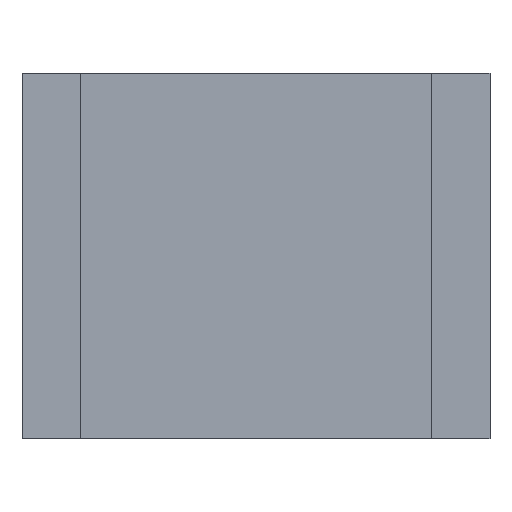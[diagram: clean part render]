
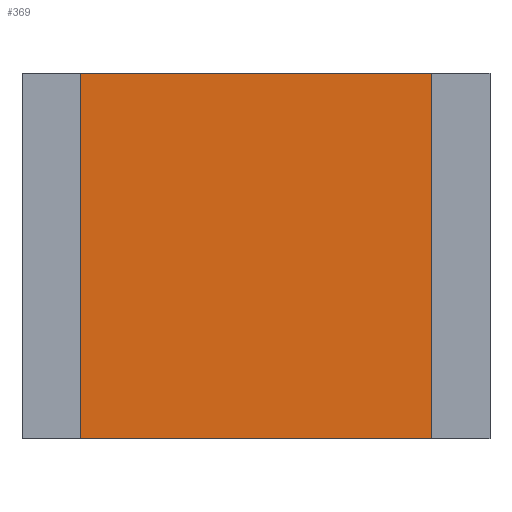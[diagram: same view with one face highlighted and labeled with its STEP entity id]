
A CAD part, top view. The second image highlights one B-rep face of the part: STEP entity #369.
In plain terms, the highlighted planar face has unit normal (0, 0, 1).
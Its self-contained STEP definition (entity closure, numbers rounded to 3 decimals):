
#369=ADVANCED_FACE('',(#766),#768,.F.);
#766=FACE_BOUND('',#767,.T.);
#767=EDGE_LOOP('',(#1050,#1051,#1052,#1053));
#768=PLANE('',#769);
#769=AXIS2_PLACEMENT_3D('',#770,#771,#772);
#770=CARTESIAN_POINT('',(0.,0.,0.6));
#771=DIRECTION('',(0.,0.,-1.));
#772=DIRECTION('',(1.,0.,0.));
#1050=ORIENTED_EDGE('',*,*,#1226,.F.);
#1051=ORIENTED_EDGE('',*,*,#1223,.F.);
#1052=ORIENTED_EDGE('',*,*,#1220,.F.);
#1053=ORIENTED_EDGE('',*,*,#1216,.F.);
#1216=EDGE_CURVE('',#1379,#1380,#1381,.T.);
#1220=EDGE_CURVE('',#1380,#1387,#1388,.T.);
#1223=EDGE_CURVE('',#1387,#1392,#1393,.T.);
#1226=EDGE_CURVE('',#1392,#1379,#1397,.T.);
#1379=VERTEX_POINT('',#1704);
#1380=VERTEX_POINT('',#1705);
#1381=LINE('',#1706,#1707);
#1387=VERTEX_POINT('',#1720);
#1388=LINE('',#1721,#1722);
#1392=VERTEX_POINT('',#1731);
#1393=LINE('',#1732,#1733);
#1397=LINE('',#1742,#1743);
#1704=CARTESIAN_POINT('',(1.2,-1.25,0.6));
#1705=CARTESIAN_POINT('',(-1.2,-1.25,0.6));
#1706=CARTESIAN_POINT('',(1.2,-1.25,0.6));
#1707=VECTOR('',#1708,1.);
#1708=DIRECTION('',(-1.,0.,0.));
#1720=CARTESIAN_POINT('',(-1.2,1.25,0.6));
#1721=CARTESIAN_POINT('',(-1.2,-1.25,0.6));
#1722=VECTOR('',#1723,1.);
#1723=DIRECTION('',(0.,1.,0.));
#1731=CARTESIAN_POINT('',(1.2,1.25,0.6));
#1732=CARTESIAN_POINT('',(-1.2,1.25,0.6));
#1733=VECTOR('',#1734,1.);
#1734=DIRECTION('',(1.,0.,0.));
#1742=CARTESIAN_POINT('',(1.2,1.25,0.6));
#1743=VECTOR('',#1744,1.);
#1744=DIRECTION('',(0.,-1.,0.));
